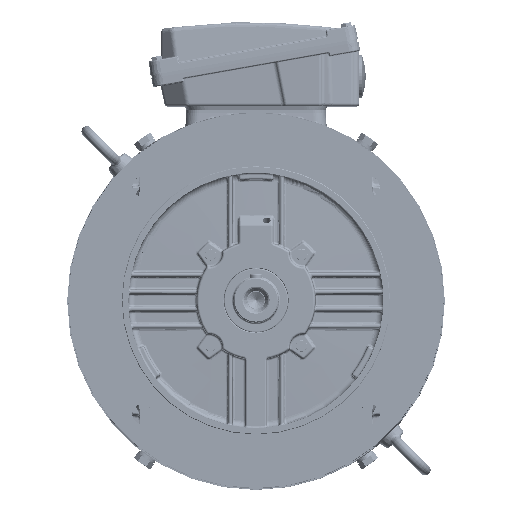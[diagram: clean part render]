
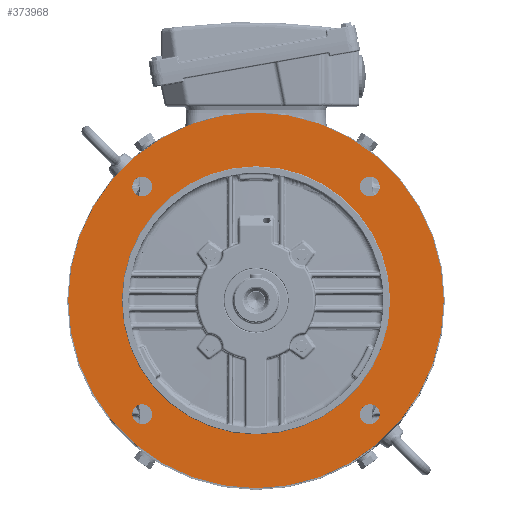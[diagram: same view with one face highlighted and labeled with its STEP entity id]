
A CAD part, top view. The second image highlights one B-rep face of the part: STEP entity #373968.
In plain terms, the highlighted planar face has unit normal (0, 0, 1).
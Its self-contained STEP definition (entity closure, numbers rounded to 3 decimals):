
#2251 = VERTEX_POINT ( 'NONE', #65568 ) ;
#8378 = CIRCLE ( 'NONE', #348724, 6.89 ) ;
#8463 = ORIENTED_EDGE ( 'NONE', *, *, #239876, .T. ) ;
#21559 = AXIS2_PLACEMENT_3D ( 'NONE', #261029, #48767, #255906 ) ;
#25620 = EDGE_CURVE ( 'NONE', #2251, #99263, #163362, .T. ) ;
#26372 = DIRECTION ( 'NONE',  ( 1., 0., 0. ) ) ;
#30092 = EDGE_CURVE ( 'NONE', #273491, #71871, #176963, .T. ) ;
#32920 = CIRCLE ( 'NONE', #236362, 0.364 ) ;
#34669 = CARTESIAN_POINT ( 'NONE',  ( -4.176, -4.176, 8.386 ) ) ;
#38704 = ORIENTED_EDGE ( 'NONE', *, *, #328915, .F. ) ;
#40888 = ORIENTED_EDGE ( 'NONE', *, *, #179681, .F. ) ;
#41359 = DIRECTION ( 'NONE',  ( 1., 0., 0. ) ) ;
#44141 = VERTEX_POINT ( 'NONE', #355344 ) ;
#48767 = DIRECTION ( 'NONE',  ( 0., 0., 1. ) ) ;
#51078 = CARTESIAN_POINT ( 'NONE',  ( 6.89, 0., 8.386 ) ) ;
#54628 = DIRECTION ( 'NONE',  ( 0., 0., 1. ) ) ;
#54876 = DIRECTION ( 'NONE',  ( 0., 0., 1. ) ) ;
#58781 = DIRECTION ( 'NONE',  ( 0., 0., 1. ) ) ;
#59758 = AXIS2_PLACEMENT_3D ( 'NONE', #118451, #384068, #205177 ) ;
#64509 = DIRECTION ( 'NONE',  ( 0., 0., 1. ) ) ;
#65568 = CARTESIAN_POINT ( 'NONE',  ( 3.812, -4.176, 8.386 ) ) ;
#66559 = FACE_BOUND ( 'NONE', #155932, .T. ) ;
#71871 = VERTEX_POINT ( 'NONE', #109980 ) ;
#75468 = VERTEX_POINT ( 'NONE', #270435 ) ;
#79050 = CIRCLE ( 'NONE', #230803, 0.364 ) ;
#80156 = EDGE_CURVE ( 'NONE', #285956, #285691, #32920, .T. ) ;
#82193 = EDGE_CURVE ( 'NONE', #75468, #328939, #8378, .T. ) ;
#84659 = EDGE_LOOP ( 'NONE', ( #205998, #344998 ) ) ;
#88711 = CIRCLE ( 'NONE', #149626, 0.364 ) ;
#91459 = ORIENTED_EDGE ( 'NONE', *, *, #251458, .F. ) ;
#91648 = DIRECTION ( 'NONE',  ( 1., 0., 0. ) ) ;
#99263 = VERTEX_POINT ( 'NONE', #319771 ) ;
#105095 = DIRECTION ( 'NONE',  ( 0., 0., 1. ) ) ;
#108332 = DIRECTION ( 'NONE',  ( 0., 0., 1. ) ) ;
#109980 = CARTESIAN_POINT ( 'NONE',  ( -3.812, 4.176, 8.386 ) ) ;
#111615 = CARTESIAN_POINT ( 'NONE',  ( 0., 0., 8.386 ) ) ;
#116667 = DIRECTION ( 'NONE',  ( 0., 0., 1. ) ) ;
#118451 = CARTESIAN_POINT ( 'NONE',  ( 4.176, -4.176, 8.386 ) ) ;
#120255 = VERTEX_POINT ( 'NONE', #201628 ) ;
#125463 = DIRECTION ( 'NONE',  ( 0., 0., 1. ) ) ;
#134205 = DIRECTION ( 'NONE',  ( 1., 0., 0. ) ) ;
#135697 = EDGE_CURVE ( 'NONE', #120255, #181441, #141935, .T. ) ;
#137533 = CARTESIAN_POINT ( 'NONE',  ( 4.176, 4.176, 8.386 ) ) ;
#141935 = CIRCLE ( 'NONE', #21559, 4.921 ) ;
#149626 = AXIS2_PLACEMENT_3D ( 'NONE', #227070, #54876, #170113 ) ;
#150102 = CARTESIAN_POINT ( 'NONE',  ( 4.176, 4.176, 8.386 ) ) ;
#151019 = AXIS2_PLACEMENT_3D ( 'NONE', #238689, #58781, #26372 ) ;
#153690 = DIRECTION ( 'NONE',  ( 1., 0., 0. ) ) ;
#153879 = EDGE_CURVE ( 'NONE', #99263, #2251, #361181, .T. ) ;
#155932 = EDGE_LOOP ( 'NONE', ( #384487, #237509 ) ) ;
#156983 = CARTESIAN_POINT ( 'NONE',  ( -3.812, -4.176, 8.386 ) ) ;
#159029 = FACE_OUTER_BOUND ( 'NONE', #176998, .T. ) ;
#163362 = CIRCLE ( 'NONE', #381046, 0.364 ) ;
#164013 = CARTESIAN_POINT ( 'NONE',  ( 0., 0., 8.386 ) ) ;
#170113 = DIRECTION ( 'NONE',  ( 1., 0., 0. ) ) ;
#170824 = CARTESIAN_POINT ( 'NONE',  ( 0., 0., 8.386 ) ) ;
#175902 = CIRCLE ( 'NONE', #216671, 4.921 ) ;
#176963 = CIRCLE ( 'NONE', #151019, 0.364 ) ;
#176998 = EDGE_LOOP ( 'NONE', ( #8463, #210432 ) ) ;
#179681 = EDGE_CURVE ( 'NONE', #44141, #344505, #270823, .T. ) ;
#179710 = CARTESIAN_POINT ( 'NONE',  ( -4.54, -4.176, 8.386 ) ) ;
#179934 = DIRECTION ( 'NONE',  ( 0., 0., 1. ) ) ;
#180307 = EDGE_CURVE ( 'NONE', #285691, #285956, #200952, .T. ) ;
#181441 = VERTEX_POINT ( 'NONE', #332238 ) ;
#190602 = AXIS2_PLACEMENT_3D ( 'NONE', #282497, #105095, #312291 ) ;
#193232 = EDGE_LOOP ( 'NONE', ( #241722, #40888 ) ) ;
#200952 = CIRCLE ( 'NONE', #263674, 0.364 ) ;
#201628 = CARTESIAN_POINT ( 'NONE',  ( -4.921, 0., 8.386 ) ) ;
#205177 = DIRECTION ( 'NONE',  ( 1., 0., 0. ) ) ;
#205992 = DIRECTION ( 'NONE',  ( 1., 0., 0. ) ) ;
#205998 = ORIENTED_EDGE ( 'NONE', *, *, #153879, .F. ) ;
#210432 = ORIENTED_EDGE ( 'NONE', *, *, #82193, .T. ) ;
#214670 = EDGE_LOOP ( 'NONE', ( #91459, #332943 ) ) ;
#216133 = CARTESIAN_POINT ( 'NONE',  ( 4.54, 4.176, 8.386 ) ) ;
#216671 = AXIS2_PLACEMENT_3D ( 'NONE', #164013, #108332, #134205 ) ;
#221550 = PLANE ( 'NONE',  #190602 ) ;
#227070 = CARTESIAN_POINT ( 'NONE',  ( -4.176, 4.176, 8.386 ) ) ;
#230673 = DIRECTION ( 'NONE',  ( 1., 0., 0. ) ) ;
#230803 = AXIS2_PLACEMENT_3D ( 'NONE', #150102, #179934, #327597 ) ;
#236362 = AXIS2_PLACEMENT_3D ( 'NONE', #306673, #245824, #91648 ) ;
#237509 = ORIENTED_EDGE ( 'NONE', *, *, #180307, .F. ) ;
#237629 = CIRCLE ( 'NONE', #268352, 6.89 ) ;
#238689 = CARTESIAN_POINT ( 'NONE',  ( -4.176, 4.176, 8.386 ) ) ;
#239876 = EDGE_CURVE ( 'NONE', #328939, #75468, #237629, .T. ) ;
#241722 = ORIENTED_EDGE ( 'NONE', *, *, #376619, .F. ) ;
#245824 = DIRECTION ( 'NONE',  ( 0., 0., 1. ) ) ;
#247152 = FACE_BOUND ( 'NONE', #84659, .T. ) ;
#251155 = AXIS2_PLACEMENT_3D ( 'NONE', #137533, #54628, #230673 ) ;
#251458 = EDGE_CURVE ( 'NONE', #181441, #120255, #175902, .T. ) ;
#255906 = DIRECTION ( 'NONE',  ( 1., 0., 0. ) ) ;
#261029 = CARTESIAN_POINT ( 'NONE',  ( 0., 0., 8.386 ) ) ;
#263674 = AXIS2_PLACEMENT_3D ( 'NONE', #34669, #64509, #153690 ) ;
#268352 = AXIS2_PLACEMENT_3D ( 'NONE', #111615, #116667, #205992 ) ;
#270435 = CARTESIAN_POINT ( 'NONE',  ( -6.89, 0., 8.386 ) ) ;
#270823 = CIRCLE ( 'NONE', #251155, 0.364 ) ;
#273491 = VERTEX_POINT ( 'NONE', #294612 ) ;
#276202 = EDGE_LOOP ( 'NONE', ( #38704, #375773 ) ) ;
#282497 = CARTESIAN_POINT ( 'NONE',  ( 0., 6.89, 8.386 ) ) ;
#284300 = FACE_BOUND ( 'NONE', #193232, .T. ) ;
#285691 = VERTEX_POINT ( 'NONE', #179710 ) ;
#285956 = VERTEX_POINT ( 'NONE', #156983 ) ;
#294612 = CARTESIAN_POINT ( 'NONE',  ( -4.54, 4.176, 8.386 ) ) ;
#306673 = CARTESIAN_POINT ( 'NONE',  ( -4.176, -4.176, 8.386 ) ) ;
#312291 = DIRECTION ( 'NONE',  ( 1., 0., 0. ) ) ;
#314686 = DIRECTION ( 'NONE',  ( 1., 0., 0. ) ) ;
#319771 = CARTESIAN_POINT ( 'NONE',  ( 4.54, -4.176, 8.386 ) ) ;
#327597 = DIRECTION ( 'NONE',  ( 1., 0., 0. ) ) ;
#328915 = EDGE_CURVE ( 'NONE', #71871, #273491, #88711, .T. ) ;
#328939 = VERTEX_POINT ( 'NONE', #51078 ) ;
#332238 = CARTESIAN_POINT ( 'NONE',  ( 4.921, 0., 8.386 ) ) ;
#332943 = ORIENTED_EDGE ( 'NONE', *, *, #135697, .F. ) ;
#333941 = CARTESIAN_POINT ( 'NONE',  ( 4.176, -4.176, 8.386 ) ) ;
#335167 = FACE_BOUND ( 'NONE', #276202, .T. ) ;
#344505 = VERTEX_POINT ( 'NONE', #216133 ) ;
#344998 = ORIENTED_EDGE ( 'NONE', *, *, #25620, .F. ) ;
#348724 = AXIS2_PLACEMENT_3D ( 'NONE', #170824, #349595, #314686 ) ;
#349595 = DIRECTION ( 'NONE',  ( 0., 0., 1. ) ) ;
#355344 = CARTESIAN_POINT ( 'NONE',  ( 3.812, 4.176, 8.386 ) ) ;
#361181 = CIRCLE ( 'NONE', #59758, 0.364 ) ;
#373968 = ADVANCED_FACE ( 'NONE', ( #335167, #247152, #66559, #284300, #159029, #376959 ), #221550, .T. ) ;
#375773 = ORIENTED_EDGE ( 'NONE', *, *, #30092, .F. ) ;
#376619 = EDGE_CURVE ( 'NONE', #344505, #44141, #79050, .T. ) ;
#376959 = FACE_BOUND ( 'NONE', #214670, .T. ) ;
#381046 = AXIS2_PLACEMENT_3D ( 'NONE', #333941, #125463, #41359 ) ;
#384068 = DIRECTION ( 'NONE',  ( 0., 0., 1. ) ) ;
#384487 = ORIENTED_EDGE ( 'NONE', *, *, #80156, .F. ) ;
